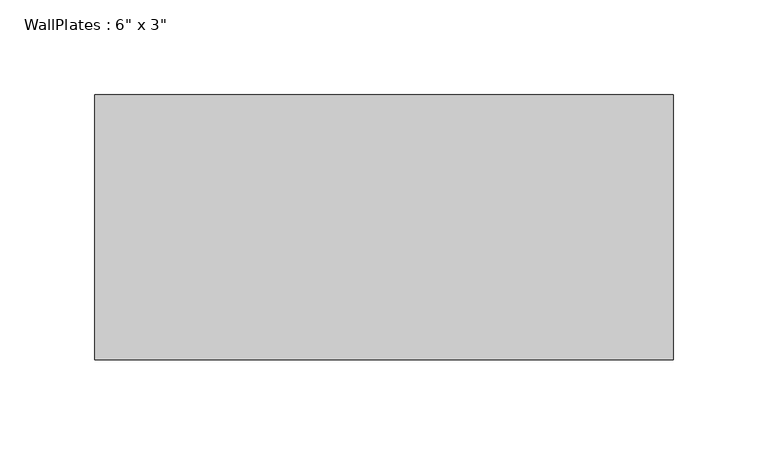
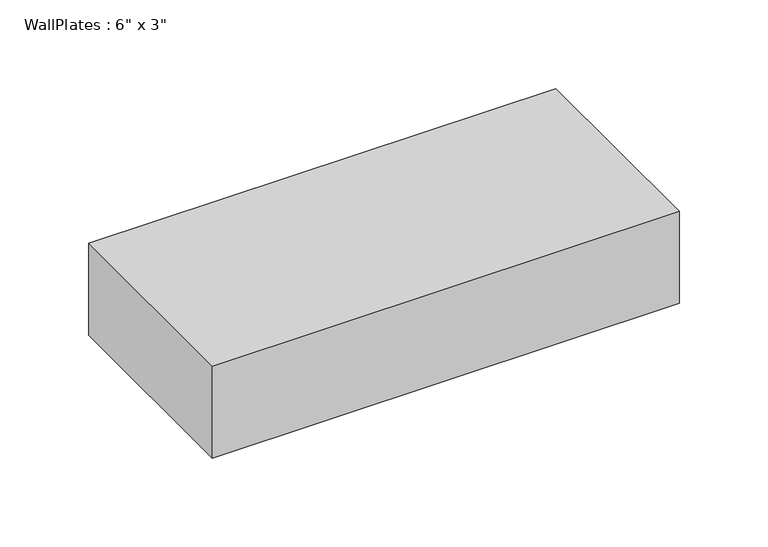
"""IFC4 building model written with IfcOpenShell, lengths in millimetres: beam geometry."""

from ifc_helpers import new_model, si_unit, frame, origin, place, context, project, spatial, polyline, outline, extrude, source, transform, mapped, element, save


def beam_dc1d60f5(model_context):
    return source(origin(), model_context, "Body", "SweptSolid", [
        extrude(outline(polyline([(-152.4075, -69.85), (-152.4075, 69.85), (152.4075, 69.85), (152.4075, -69.85), (-152.4075, -69.85)])), frame((0.0, 0.0, -31.75), z_axis=(0.0, 0.0, 1.0), x_axis=(1.0, 0.0, 0.0)), (0.0, 0.0, 1.0), 63.5),
    ])


if __name__ == "__main__":
    model = new_model("IFC4")
    model_context = context("Model", 3, world=origin())
    ifc_project = project(units=[si_unit("LENGTHUNIT", "METRE", prefix="MILLI")], contexts=[model_context])
    site = spatial("IfcSite", under=ifc_project)
    building = spatial("IfcBuilding", under=site)
    placement = place(None, origin())
    beam_shape = beam_dc1d60f5(model_context)
    element("IfcBeam", 1, ObjectType="WallPlates : 6\" x 3\"", at=placement, inside=building, context=model_context, shape_type="MappedRepresentation", body=[
        mapped(beam_shape, transform((0.0, 0.0, 0.0), x_axis=(1.0, 0.0, 0.0), y_axis=(0.0, 1.0, 0.0), z_axis=(0.0, 0.0, 1.0))),
    ])
    save(model, "model.ifc")
